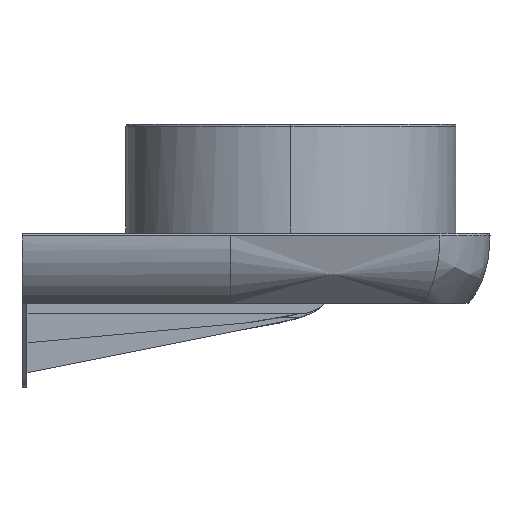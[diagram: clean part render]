
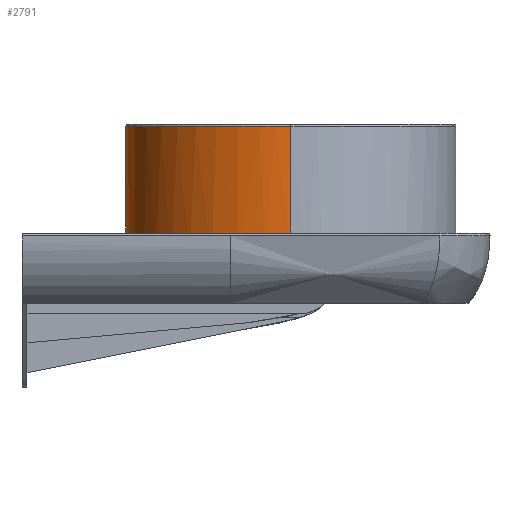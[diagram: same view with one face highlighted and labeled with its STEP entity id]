
A CAD part, left-side view. The second image highlights one B-rep face of the part: STEP entity #2791.
In plain terms, the highlighted free-form (B-spline) face has degree [5, 1] with [15, 2] control points.
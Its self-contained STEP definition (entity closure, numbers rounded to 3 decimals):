
#2791=ADVANCED_FACE('',(#5562),#41293,.T.);
#5562=FACE_OUTER_BOUND('',#8358,.T.);
#8358=EDGE_LOOP('',(#21329,#21330,#21331,#21332));
#21329=ORIENTED_EDGE('',*,*,#28030,.F.);
#21330=ORIENTED_EDGE('',*,*,#28038,.T.);
#21331=ORIENTED_EDGE('',*,*,#27986,.F.);
#21332=ORIENTED_EDGE('',*,*,#28037,.F.);
#27986=EDGE_CURVE('',#38472,#38470,#29109,.T.);
#28030=EDGE_CURVE('',#38501,#38500,#29125,.T.);
#28037=EDGE_CURVE('',#38500,#38472,#29132,.T.);
#28038=EDGE_CURVE('',#38501,#38470,#29133,.T.);
#29109=(
BOUNDED_CURVE()
B_SPLINE_CURVE(2,(#206972,#206973,#206974),.UNSPECIFIED.,.F.,.F.)
B_SPLINE_CURVE_WITH_KNOTS((3,3),(646.254,969.382),
 .UNSPECIFIED.)
CURVE()
GEOMETRIC_REPRESENTATION_ITEM()
RATIONAL_B_SPLINE_CURVE((1.,0.707,1.))
REPRESENTATION_ITEM('')
);
#29125=(
BOUNDED_CURVE()
B_SPLINE_CURVE(2,(#207499,#207500,#207501),.UNSPECIFIED.,.F.,.F.)
B_SPLINE_CURVE_WITH_KNOTS((3,3),(-969.382,-646.254),
 .UNSPECIFIED.)
CURVE()
GEOMETRIC_REPRESENTATION_ITEM()
RATIONAL_B_SPLINE_CURVE((1.,0.707,1.))
REPRESENTATION_ITEM('')
);
#29132=(
BOUNDED_CURVE()
B_SPLINE_CURVE(5,(#207526,#207527,#207528,#207529,#207530,#207531),
 .UNSPECIFIED.,.F.,.F.)
B_SPLINE_CURVE_WITH_KNOTS((6,6),(0.,133.),.UNSPECIFIED.)
CURVE()
GEOMETRIC_REPRESENTATION_ITEM()
RATIONAL_B_SPLINE_CURVE((1.,1.,1.,1.,1.,1.))
REPRESENTATION_ITEM('')
);
#29133=(
BOUNDED_CURVE()
B_SPLINE_CURVE(5,(#207532,#207533,#207534,#207535,#207536,#207537),
 .UNSPECIFIED.,.F.,.F.)
B_SPLINE_CURVE_WITH_KNOTS((6,6),(0.,133.),.UNSPECIFIED.)
CURVE()
GEOMETRIC_REPRESENTATION_ITEM()
RATIONAL_B_SPLINE_CURVE((1.,1.,1.,1.,1.,1.))
REPRESENTATION_ITEM('')
);
#38470=VERTEX_POINT('',#206573);
#38472=VERTEX_POINT('',#206575);
#38500=VERTEX_POINT('',#206603);
#38501=VERTEX_POINT('',#206604);
#41293=B_SPLINE_SURFACE_WITH_KNOTS('',5,1,((#205076,#205077),(#205078,#205079),
(#205080,#205081),(#205082,#205083),(#205084,#205085),(#205086,#205087),
(#205088,#205089),(#205090,#205091),(#205092,#205093),(#205094,#205095),
(#205096,#205097),(#205098,#205099),(#205100,#205101),(#205102,#205103),
(#205104,#205105)),.UNSPECIFIED.,.F.,.F.,.F.,(6,3,3,3,6),(2,2),(626.867,
727.036,807.818,888.6,988.769),(256.168,
426.744),.UNSPECIFIED.);
#205076=CARTESIAN_POINT('',(-332.12,-282.736,124.163));
#205077=CARTESIAN_POINT('',(-332.12,-282.736,-38.097));
#205078=CARTESIAN_POINT('',(-333.281,-268.834,124.163));
#205079=CARTESIAN_POINT('',(-333.281,-268.834,-38.097));
#205080=CARTESIAN_POINT('',(-333.03,-254.136,124.163));
#205081=CARTESIAN_POINT('',(-333.03,-254.136,-38.097));
#205082=CARTESIAN_POINT('',(-331.06,-238.839,124.163));
#205083=CARTESIAN_POINT('',(-331.06,-238.839,-38.097));
#205084=CARTESIAN_POINT('',(-323.889,-210.906,124.163));
#205085=CARTESIAN_POINT('',(-323.889,-210.906,-38.097));
#205086=CARTESIAN_POINT('',(-310.15,-184.12,124.163));
#205087=CARTESIAN_POINT('',(-310.15,-184.12,-38.097));
#205088=CARTESIAN_POINT('',(-302.696,-172.659,124.163));
#205089=CARTESIAN_POINT('',(-302.696,-172.659,-38.097));
#205090=CARTESIAN_POINT('',(-285.366,-151.327,124.163));
#205091=CARTESIAN_POINT('',(-285.366,-151.327,-38.097));
#205092=CARTESIAN_POINT('',(-264.034,-133.997,124.163));
#205093=CARTESIAN_POINT('',(-264.034,-133.997,-38.097));
#205094=CARTESIAN_POINT('',(-252.573,-126.543,124.163));
#205095=CARTESIAN_POINT('',(-252.573,-126.543,-38.097));
#205096=CARTESIAN_POINT('',(-225.787,-112.804,124.163));
#205097=CARTESIAN_POINT('',(-225.787,-112.804,-38.097));
#205098=CARTESIAN_POINT('',(-197.854,-105.633,124.163));
#205099=CARTESIAN_POINT('',(-197.854,-105.633,-38.097));
#205100=CARTESIAN_POINT('',(-182.557,-103.662,124.163));
#205101=CARTESIAN_POINT('',(-182.557,-103.662,-38.097));
#205102=CARTESIAN_POINT('',(-167.859,-103.412,124.163));
#205103=CARTESIAN_POINT('',(-167.859,-103.412,-38.097));
#205104=CARTESIAN_POINT('',(-153.957,-104.573,124.163));
#205105=CARTESIAN_POINT('',(-153.957,-104.573,-38.097));
#206573=CARTESIAN_POINT('',(-167.693,-104.,-23.467));
#206575=CARTESIAN_POINT('',(-332.693,-269.,-23.467));
#206603=CARTESIAN_POINT('',(-332.693,-269.,109.533));
#206604=CARTESIAN_POINT('',(-167.693,-104.,109.533));
#206972=CARTESIAN_POINT('',(-332.693,-269.,-23.467));
#206973=CARTESIAN_POINT('',(-332.693,-104.,-23.467));
#206974=CARTESIAN_POINT('',(-167.693,-104.,-23.467));
#207499=CARTESIAN_POINT('',(-167.693,-104.,109.533));
#207500=CARTESIAN_POINT('',(-332.693,-104.,109.533));
#207501=CARTESIAN_POINT('',(-332.693,-269.,109.533));
#207526=CARTESIAN_POINT('',(-332.693,-269.,109.533));
#207527=CARTESIAN_POINT('',(-332.693,-269.,82.933));
#207528=CARTESIAN_POINT('',(-332.693,-269.,56.333));
#207529=CARTESIAN_POINT('',(-332.693,-269.,29.733));
#207530=CARTESIAN_POINT('',(-332.693,-269.,3.133));
#207531=CARTESIAN_POINT('',(-332.693,-269.,-23.467));
#207532=CARTESIAN_POINT('',(-167.693,-104.,109.533));
#207533=CARTESIAN_POINT('',(-167.693,-104.,82.933));
#207534=CARTESIAN_POINT('',(-167.693,-104.,56.333));
#207535=CARTESIAN_POINT('',(-167.693,-104.,29.733));
#207536=CARTESIAN_POINT('',(-167.693,-104.,3.133));
#207537=CARTESIAN_POINT('',(-167.693,-104.,-23.467));
